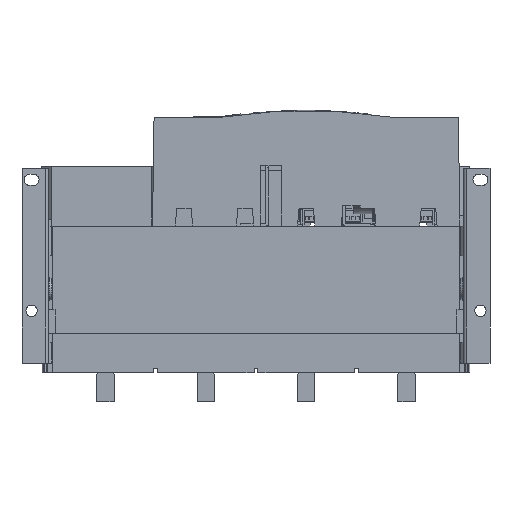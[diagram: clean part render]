
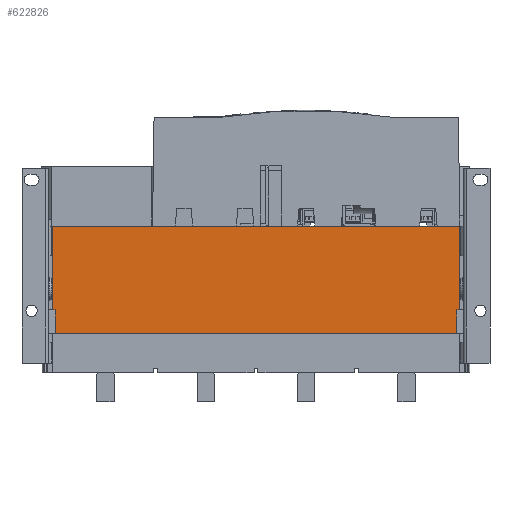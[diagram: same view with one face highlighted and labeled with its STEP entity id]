
A CAD part, front view. The second image highlights one B-rep face of the part: STEP entity #622826.
In plain terms, the highlighted planar face has unit normal (0, -1, 0).
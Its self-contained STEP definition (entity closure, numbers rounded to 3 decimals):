
#614711=CARTESIAN_POINT(' ',(-432.189,-129.088,241.283));
#614712=VERTEX_POINT(' ',#614711);
#614726=CARTESIAN_POINT(' ',(33.811,-129.088,241.283));
#614731=DIRECTION(' ',(-1.,0.,0.));
#614736=VECTOR(' ',#614731,1.);
#614741=LINE('',#614726,#614736);
#614746=CARTESIAN_POINT(' ',(33.811,-129.088,241.283));
#614747=VERTEX_POINT(' ',#614746);
#614751=EDGE_CURVE(' ',#614747,#614712,#614741,.T.);
#619051=CARTESIAN_POINT(' ',(30.811,-129.088,118.283));
#619052=VERTEX_POINT(' ',#619051);
#619066=CARTESIAN_POINT(' ',(30.811,-129.088,118.283));
#619071=DIRECTION(' ',(-1.,0.,0.));
#619076=VECTOR(' ',#619071,1.);
#619081=LINE('',#619066,#619076);
#619086=CARTESIAN_POINT(' ',(-429.189,-129.088,118.283));
#619087=VERTEX_POINT(' ',#619086);
#619091=EDGE_CURVE(' ',#619052,#619087,#619081,.T.);
#619831=CARTESIAN_POINT(' ',(-429.189,-129.088,145.283));
#619832=VERTEX_POINT(' ',#619831);
#619846=CARTESIAN_POINT(' ',(-429.189,-129.088,145.283));
#619851=DIRECTION(' ',(-1.,0.,0.));
#619856=VECTOR(' ',#619851,1.);
#619861=LINE('',#619846,#619856);
#619866=CARTESIAN_POINT(' ',(-432.189,-129.088,145.283));
#619867=VERTEX_POINT(' ',#619866);
#619871=EDGE_CURVE(' ',#619832,#619867,#619861,.T.);
#621271=CARTESIAN_POINT(' ',(33.811,-129.088,241.283));
#621276=DIRECTION(' ',(0.,0.,-1.));
#621281=VECTOR(' ',#621276,1.);
#621286=LINE('',#621271,#621281);
#621291=CARTESIAN_POINT(' ',(33.811,-129.088,145.283));
#621292=VERTEX_POINT(' ',#621291);
#621296=EDGE_CURVE(' ',#614747,#621292,#621286,.T.);
#622506=CARTESIAN_POINT(' ',(-432.189,-129.088,241.283));
#622511=DIRECTION(' ',(0.,0.,-1.));
#622516=VECTOR(' ',#622511,1.);
#622521=LINE('',#622506,#622516);
#622526=EDGE_CURVE(' ',#614712,#619867,#622521,.T.);
#622671=DIRECTION(' ',(-0.,-1.,-0.));
#622676=CARTESIAN_POINT(' ',(-432.189,-129.088,241.283));
#622681=DIRECTION(' ',(0.,0.,-1.));
#622686=AXIS2_PLACEMENT_3D(' ',#622676,#622671,#622681);
#622691=PLANE('',#622686);
#622696=ORIENTED_EDGE(' ',*,*,#619871,.F.);
#622701=CARTESIAN_POINT(' ',(-429.189,-129.088,118.283));
#622706=DIRECTION(' ',(0.,0.,1.));
#622711=VECTOR(' ',#622706,1.);
#622716=LINE('',#622701,#622711);
#622721=EDGE_CURVE(' ',#619087,#619832,#622716,.T.);
#622726=ORIENTED_EDGE(' ',*,*,#622721,.F.);
#622731=ORIENTED_EDGE(' ',*,*,#619091,.F.);
#622736=CARTESIAN_POINT(' ',(30.811,-129.088,145.283));
#622741=DIRECTION(' ',(0.,0.,-1.));
#622746=VECTOR(' ',#622741,1.);
#622751=LINE('',#622736,#622746);
#622756=CARTESIAN_POINT(' ',(30.811,-129.088,145.283));
#622757=VERTEX_POINT(' ',#622756);
#622761=EDGE_CURVE(' ',#622757,#619052,#622751,.T.);
#622766=ORIENTED_EDGE(' ',*,*,#622761,.F.);
#622771=CARTESIAN_POINT(' ',(33.811,-129.088,145.283));
#622776=DIRECTION(' ',(-1.,0.,0.));
#622781=VECTOR(' ',#622776,1.);
#622786=LINE('',#622771,#622781);
#622791=EDGE_CURVE(' ',#621292,#622757,#622786,.T.);
#622796=ORIENTED_EDGE(' ',*,*,#622791,.F.);
#622801=ORIENTED_EDGE(' ',*,*,#621296,.F.);
#622806=ORIENTED_EDGE(' ',*,*,#614751,.T.);
#622811=ORIENTED_EDGE(' ',*,*,#622526,.T.);
#622816=EDGE_LOOP(' ',(#622696,#622726,#622731,#622766,#622796,#622801,#622806,#622811));
#622821=FACE_OUTER_BOUND(' ',#622816,.T.);
#622826=ADVANCED_FACE('NONE',(#622821),#622691,.T.);
